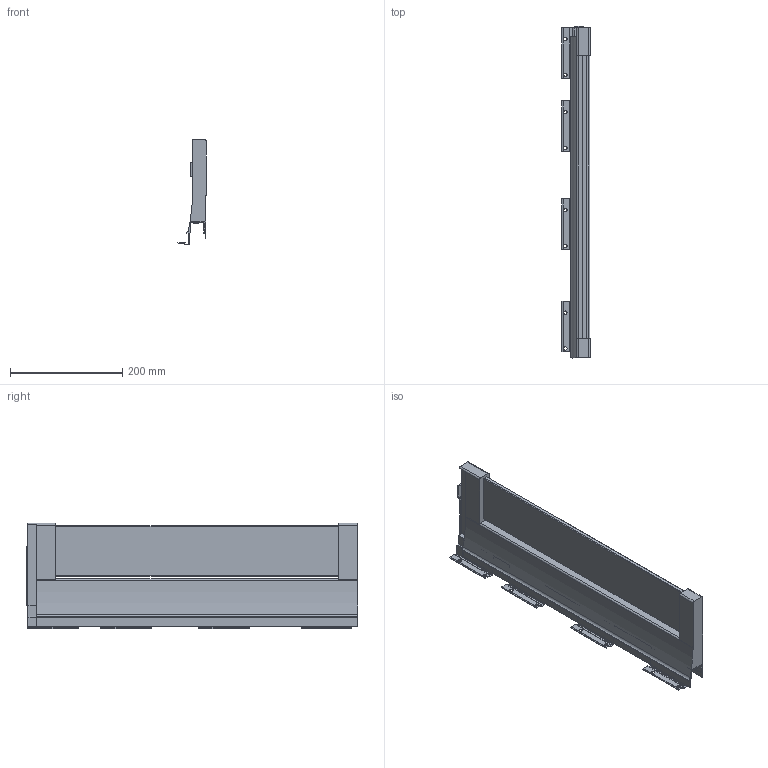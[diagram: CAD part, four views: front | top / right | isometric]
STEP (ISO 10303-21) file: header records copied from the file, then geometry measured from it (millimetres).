
FILE_DESCRIPTION (( 'STEP AP214' ), '1' );
FILE_NAME ('_XP Agantis Dekorseite H95 NL600 RE Top Glashalter.step', '2010-07-08T06:15:47', ( 'grass' ), ( '' ), 'SwSTEP 2.0', 'SolidWorks 2010', '' );
FILE_SCHEMA (( 'AUTOMOTIVE_DESIGN' ));
Length unit declared in the file: millimetre
Products named in the file (1): _XP Agantis Dekorseite H95 NL600 RE Top Glashalter
Bounding box: 50.11 x 592.6 x 188.7 mm (x, y, z)
Volume: 1401573.2 mm3; surface area: 323337.7 mm2
Topology: 1 solids, 1 shells, 190 faces, 560 edges, 365 vertices
Faces by surface type: plane 155, cylinder 35
Entity records: 6322 total; most frequent: ORIENTED_EDGE 1120, CARTESIAN_POINT 1116, DIRECTION 1014, EDGE_CURVE 560, VECTOR 488, LINE 488, VERTEX_POINT 365, AXIS2_PLACEMENT_3D 263
